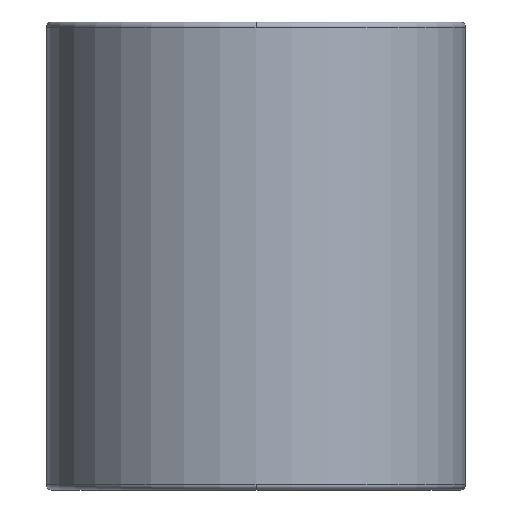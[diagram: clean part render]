
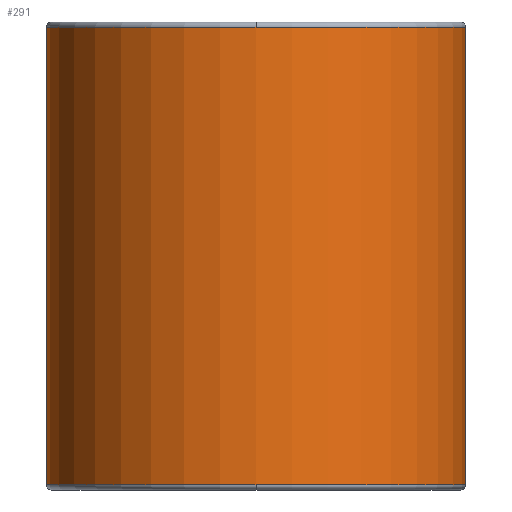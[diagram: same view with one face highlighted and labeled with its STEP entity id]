
A CAD part, front view. The second image highlights one B-rep face of the part: STEP entity #291.
In plain terms, the highlighted cylindrical face has radius 16.125 mm (diameter 32.25 mm), a partial arc.
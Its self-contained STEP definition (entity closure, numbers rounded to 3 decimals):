
#196=CARTESIAN_POINT('',(0.0,-16.125,24.1));
#197=VERTEX_POINT('',#196);
#223=CARTESIAN_POINT('',(-16.125,0.,24.1));
#224=VERTEX_POINT('',#223);
#232=CARTESIAN_POINT('',(0.0,0.,24.1));
#233=DIRECTION('',(0.0,0.0,1.0));
#234=DIRECTION('',(1.0,0.0,0.0));
#235=AXIS2_PLACEMENT_3D('',#232,#233,#234);
#236=CIRCLE('',#235,16.125);
#237=EDGE_CURVE('',#224,#197,#236,.T.);
#242=CARTESIAN_POINT('',(0.0,0.,6.5));
#243=DIRECTION('',(0.0,0.,1.0));
#244=DIRECTION('',(1.0,0.0,0.0));
#245=AXIS2_PLACEMENT_3D('',#242,#243,#244);
#246=CYLINDRICAL_SURFACE('',#245,16.125);
#247=CARTESIAN_POINT('',(16.125,0.,24.1));
#248=VERTEX_POINT('',#247);
#249=CARTESIAN_POINT('',(16.125,0.,-11.1));
#250=VERTEX_POINT('',#249);
#251=CARTESIAN_POINT('',(16.125,0.,24.1));
#252=DIRECTION('',(0.0,0.0,-1.0));
#253=VECTOR('',#252,35.2);
#254=LINE('',#251,#253);
#255=EDGE_CURVE('',#248,#250,#254,.T.);
#256=ORIENTED_EDGE('',*,*,#255,.F.);
#257=CARTESIAN_POINT('',(0.0,0.,24.1));
#258=DIRECTION('',(0.0,0.0,1.0));
#259=DIRECTION('',(1.0,0.0,0.0));
#260=AXIS2_PLACEMENT_3D('',#257,#258,#259);
#261=CIRCLE('',#260,16.125);
#262=EDGE_CURVE('',#197,#248,#261,.T.);
#263=ORIENTED_EDGE('',*,*,#262,.F.);
#264=ORIENTED_EDGE('',*,*,#237,.F.);
#265=CARTESIAN_POINT('',(-16.125,0.,-11.1));
#266=VERTEX_POINT('',#265);
#267=CARTESIAN_POINT('',(-16.125,0.,24.1));
#268=DIRECTION('',(0.0,0.0,-1.0));
#269=VECTOR('',#268,35.2);
#270=LINE('',#267,#269);
#271=EDGE_CURVE('',#224,#266,#270,.T.);
#272=ORIENTED_EDGE('',*,*,#271,.T.);
#273=CARTESIAN_POINT('',(0.0,-16.125,-11.1));
#274=VERTEX_POINT('',#273);
#275=CARTESIAN_POINT('',(0.0,0.,-11.1));
#276=DIRECTION('',(0.0,0.0,1.0));
#277=DIRECTION('',(1.0,0.0,0.0));
#278=AXIS2_PLACEMENT_3D('',#275,#276,#277);
#279=CIRCLE('',#278,16.125);
#280=EDGE_CURVE('',#266,#274,#279,.T.);
#281=ORIENTED_EDGE('',*,*,#280,.T.);
#282=CARTESIAN_POINT('',(0.0,0.,-11.1));
#283=DIRECTION('',(0.0,0.0,1.0));
#284=DIRECTION('',(1.0,0.0,0.0));
#285=AXIS2_PLACEMENT_3D('',#282,#283,#284);
#286=CIRCLE('',#285,16.125);
#287=EDGE_CURVE('',#274,#250,#286,.T.);
#288=ORIENTED_EDGE('',*,*,#287,.T.);
#289=EDGE_LOOP('',(#256,#263,#264,#272,#281,#288));
#290=FACE_OUTER_BOUND('',#289,.T.);
#291=ADVANCED_FACE('',(#290),#246,.T.);
